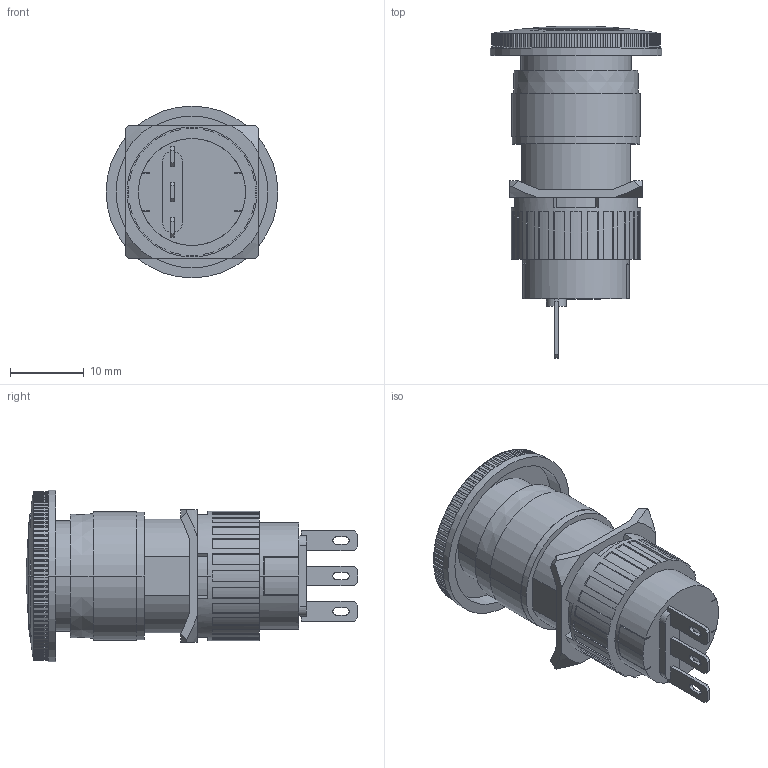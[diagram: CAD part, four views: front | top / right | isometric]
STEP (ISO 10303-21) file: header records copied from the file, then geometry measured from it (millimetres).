
FILE_DESCRIPTION (( 'STEP AP203' ), '1' );
FILE_NAME ('P16-ER.STEP', '2018-02-15T15:22:59', ( '' ), ( '' ), 'SwSTEP 2.0', 'SolidWorks 2012', '' );
FILE_SCHEMA (( 'CONFIG_CONTROL_DESIGN' ));
Length unit declared in the file: millimetre
Products named in the file (1): P16-ER
Bounding box: 23.3 x 45 x 23.3 mm (x, y, z)
Volume: 8109.2 mm3; surface area: 4317.5 mm2
Topology: 1 solids, 1 shells, 513 faces, 1477 edges, 980 vertices
Faces by surface type: cylinder 323, plane 165, cone 14, sphere 9, torus 2
Entity records: 19935 total; most frequent: CARTESIAN_POINT 6103, ORIENTED_EDGE 2954, DIRECTION 2954, EDGE_CURVE 1477, AXIS2_PLACEMENT_3D 1137, VERTEX_POINT 980, VECTOR 680, LINE 680
